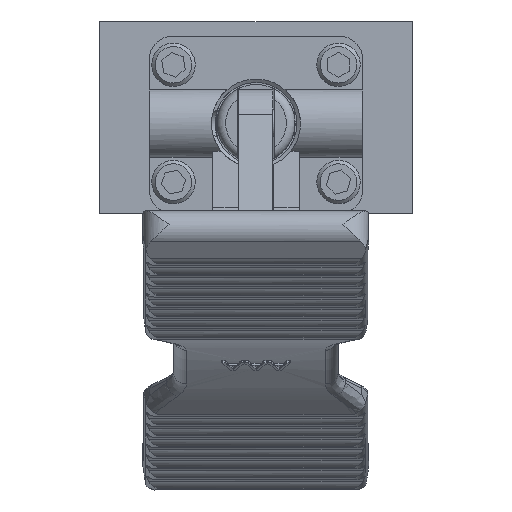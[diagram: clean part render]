
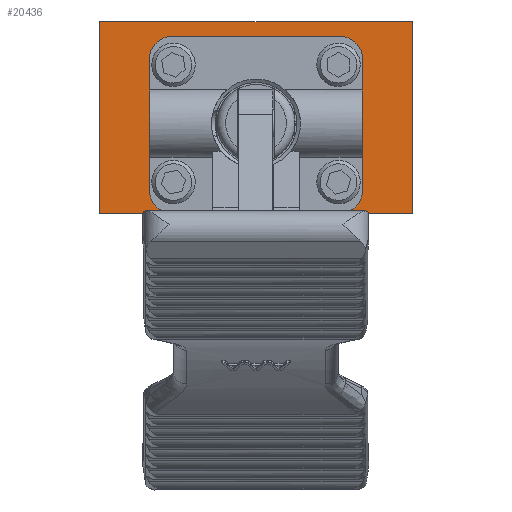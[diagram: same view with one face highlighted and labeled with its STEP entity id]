
A CAD part, top view. The second image highlights one B-rep face of the part: STEP entity #20436.
In plain terms, the highlighted planar face has unit normal (0, 0, 1).
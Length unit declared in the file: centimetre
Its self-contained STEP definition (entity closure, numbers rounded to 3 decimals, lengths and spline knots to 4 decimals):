
#776=LINE('',#29792,#2081);
#777=LINE('',#29794,#2082);
#778=LINE('',#29796,#2083);
#779=LINE('',#29797,#2084);
#780=LINE('',#29802,#2085);
#781=LINE('',#29806,#2086);
#782=LINE('',#29810,#2087);
#783=LINE('',#29813,#2088);
#2081=VECTOR('',#24263,5.715);
#2082=VECTOR('',#24264,3.4925);
#2083=VECTOR('',#24265,5.715);
#2084=VECTOR('',#24266,3.4925);
#2085=VECTOR('',#24269,2.3622);
#2086=VECTOR('',#24272,3.0759);
#2087=VECTOR('',#24275,2.3622);
#2088=VECTOR('',#24278,3.0759);
#5266=FACE_BOUND('',#7021,.T.);
#5653=FACE_OUTER_BOUND('',#7020,.T.);
#7020=EDGE_LOOP('',(#14317,#14318,#14319,#14320));
#7021=EDGE_LOOP('',(#14321,#14322,#14323,#14324,#14325,#14326,#14327,#14328));
#8533=CIRCLE('',#21839,0.4064);
#8534=CIRCLE('',#21840,0.4064);
#8535=CIRCLE('',#21841,0.4064);
#8536=CIRCLE('',#21842,0.4064);
#9419=VERTEX_POINT('',#29790);
#9420=VERTEX_POINT('',#29791);
#9421=VERTEX_POINT('',#29793);
#9422=VERTEX_POINT('',#29795);
#9423=VERTEX_POINT('',#29798);
#9424=VERTEX_POINT('',#29799);
#9425=VERTEX_POINT('',#29801);
#9426=VERTEX_POINT('',#29803);
#9427=VERTEX_POINT('',#29805);
#9428=VERTEX_POINT('',#29807);
#9429=VERTEX_POINT('',#29809);
#9430=VERTEX_POINT('',#29811);
#11342=EDGE_CURVE('',#9419,#9420,#776,.T.);
#11343=EDGE_CURVE('',#9421,#9420,#777,.T.);
#11344=EDGE_CURVE('',#9421,#9422,#778,.T.);
#11345=EDGE_CURVE('',#9422,#9419,#779,.T.);
#11346=EDGE_CURVE('',#9423,#9424,#8533,.T.);
#11347=EDGE_CURVE('',#9424,#9425,#780,.T.);
#11348=EDGE_CURVE('',#9425,#9426,#8534,.T.);
#11349=EDGE_CURVE('',#9426,#9427,#781,.T.);
#11350=EDGE_CURVE('',#9427,#9428,#8535,.T.);
#11351=EDGE_CURVE('',#9428,#9429,#782,.T.);
#11352=EDGE_CURVE('',#9429,#9430,#8536,.T.);
#11353=EDGE_CURVE('',#9430,#9423,#783,.T.);
#14317=ORIENTED_EDGE('',*,*,#11342,.T.);
#14318=ORIENTED_EDGE('',*,*,#11343,.F.);
#14319=ORIENTED_EDGE('',*,*,#11344,.T.);
#14320=ORIENTED_EDGE('',*,*,#11345,.T.);
#14321=ORIENTED_EDGE('',*,*,#11346,.T.);
#14322=ORIENTED_EDGE('',*,*,#11347,.T.);
#14323=ORIENTED_EDGE('',*,*,#11348,.T.);
#14324=ORIENTED_EDGE('',*,*,#11349,.T.);
#14325=ORIENTED_EDGE('',*,*,#11350,.T.);
#14326=ORIENTED_EDGE('',*,*,#11351,.T.);
#14327=ORIENTED_EDGE('',*,*,#11352,.T.);
#14328=ORIENTED_EDGE('',*,*,#11353,.T.);
#19814=PLANE('',#21838);
#20436=ADVANCED_FACE('',(#5653,#5266),#19814,.T.);
#21838=AXIS2_PLACEMENT_3D('',#29789,#24261,#24262);
#21839=AXIS2_PLACEMENT_3D('',#29800,#24267,#24268);
#21840=AXIS2_PLACEMENT_3D('',#29804,#24270,#24271);
#21841=AXIS2_PLACEMENT_3D('',#29808,#24273,#24274);
#21842=AXIS2_PLACEMENT_3D('',#29812,#24276,#24277);
#24261=DIRECTION('center_axis',(0.,0.,1.));
#24262=DIRECTION('ref_axis',(1.,0.,0.));
#24263=DIRECTION('',(-1.,0.,0.));
#24264=DIRECTION('',(0.,1.,0.));
#24265=DIRECTION('',(1.,0.,0.));
#24266=DIRECTION('',(0.,1.,0.));
#24267=DIRECTION('center_axis',(0.,0.,
-1.));
#24268=DIRECTION('ref_axis',(1.,0.,0.));
#24269=DIRECTION('',(0.,1.,0.));
#24270=DIRECTION('center_axis',(0.,0.,
-1.));
#24271=DIRECTION('ref_axis',(0.,-1.,0.));
#24272=DIRECTION('',(1.,0.,0.));
#24273=DIRECTION('center_axis',(0.,0.,
-1.));
#24274=DIRECTION('ref_axis',(-1.,0.,0.));
#24275=DIRECTION('',(0.,-1.,0.));
#24276=DIRECTION('center_axis',(0.,0.,
-1.));
#24277=DIRECTION('ref_axis',(0.,1.,0.));
#24278=DIRECTION('',(-1.,0.,0.));
#29789=CARTESIAN_POINT('Origin',(2.8575,0.,4.7104));
#29790=CARTESIAN_POINT('',(2.8575,3.4925,4.7104));
#29791=CARTESIAN_POINT('',(-2.8575,3.4925,4.7104));
#29792=CARTESIAN_POINT('',(-2.8575,3.4925,4.7104));
#29793=CARTESIAN_POINT('',(-2.8575,0.,4.7104));
#29794=CARTESIAN_POINT('',(-2.8575,0.,4.7104));
#29795=CARTESIAN_POINT('',(2.8575,0.,4.7104));
#29796=CARTESIAN_POINT('',(-2.8575,0.,4.7104));
#29797=CARTESIAN_POINT('',(2.8575,0.,4.7104));
#29798=CARTESIAN_POINT('',(-1.538,0.0483,4.7104));
#29799=CARTESIAN_POINT('',(-1.9444,0.4547,4.7104));
#29800=CARTESIAN_POINT('Origin',(-1.538,0.4547,4.7104));
#29801=CARTESIAN_POINT('',(-1.9444,2.8169,4.7104));
#29802=CARTESIAN_POINT('',(-1.9444,0.4547,4.7104));
#29803=CARTESIAN_POINT('',(-1.538,3.2233,4.7104));
#29804=CARTESIAN_POINT('Origin',(-1.538,2.8169,4.7104));
#29805=CARTESIAN_POINT('',(1.538,3.2233,4.7104));
#29806=CARTESIAN_POINT('',(-1.538,3.2233,4.7104));
#29807=CARTESIAN_POINT('',(1.9444,2.8169,4.7104));
#29808=CARTESIAN_POINT('Origin',(1.538,2.8169,4.7104));
#29809=CARTESIAN_POINT('',(1.9444,0.4547,4.7104));
#29810=CARTESIAN_POINT('',(1.9444,2.8169,4.7104));
#29811=CARTESIAN_POINT('',(1.538,0.0483,4.7104));
#29812=CARTESIAN_POINT('Origin',(1.538,0.4547,4.7104));
#29813=CARTESIAN_POINT('',(1.538,0.0483,4.7104));
